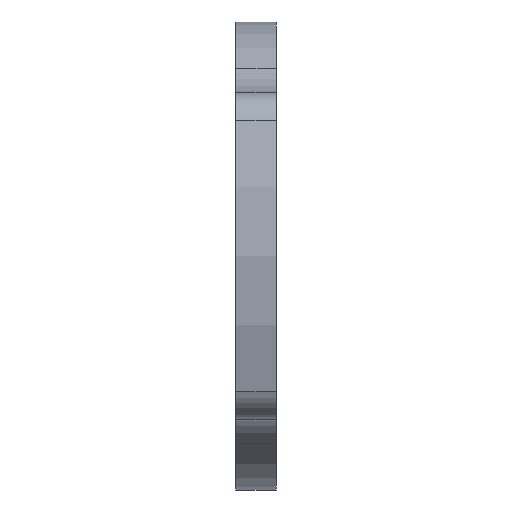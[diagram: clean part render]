
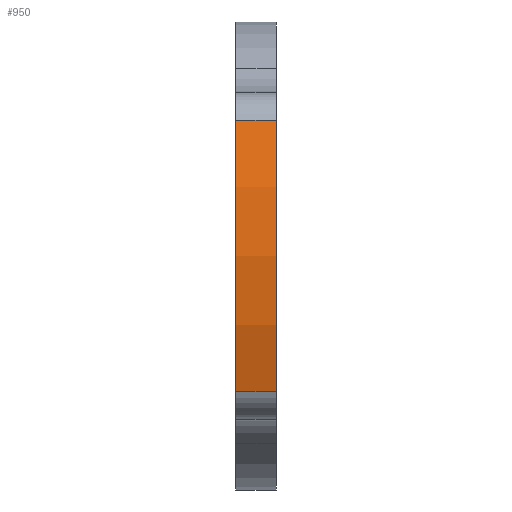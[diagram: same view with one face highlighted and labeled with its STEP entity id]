
A CAD part, left-side view. The second image highlights one B-rep face of the part: STEP entity #950.
In plain terms, the highlighted cylindrical face has radius 50.65 mm (diameter 101.3 mm), a partial arc.
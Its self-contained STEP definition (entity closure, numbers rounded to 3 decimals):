
#54 = FACE_OUTER_BOUND ( 'NONE', #1021, .T. ) ;
#375 = LINE ( 'NONE', #1093, #690 ) ;
#389 = CARTESIAN_POINT ( 'NONE',  ( -47.838, 5., 16.643 ) ) ;
#404 = CYLINDRICAL_SURFACE ( 'NONE', #1224, 50.65 ) ;
#690 = VECTOR ( 'NONE', #1098, 1000. ) ;
#746 = ORIENTED_EDGE ( 'NONE', *, *, #1424, .T. ) ;
#750 = ORIENTED_EDGE ( 'NONE', *, *, #1423, .T. ) ;
#751 = CARTESIAN_POINT ( 'NONE',  ( -47.838, 5., -16.643 ) ) ;
#763 = ORIENTED_EDGE ( 'NONE', *, *, #1487, .F. ) ;
#784 = VERTEX_POINT ( 'NONE', #751 ) ;
#817 = ORIENTED_EDGE ( 'NONE', *, *, #1379, .T. ) ;
#946 = LINE ( 'NONE', #1115, #955 ) ;
#950 = ADVANCED_FACE ( 'NONE', ( #54 ), #404, .T. ) ;
#951 = DIRECTION ( 'NONE',  ( 0., 0., 1. ) ) ;
#952 = DIRECTION ( 'NONE',  ( 0., -1., 0. ) ) ;
#955 = VECTOR ( 'NONE', #1066, 1000. ) ;
#959 = CARTESIAN_POINT ( 'NONE',  ( 0., 0., 0. ) ) ;
#980 = CIRCLE ( 'NONE', #1170, 50.65 ) ;
#1021 = EDGE_LOOP ( 'NONE', ( #817, #750, #763, #746 ) ) ;
#1023 = VERTEX_POINT ( 'NONE', #1598 ) ;
#1066 = DIRECTION ( 'NONE',  ( 0., 1., 0. ) ) ;
#1088 = CIRCLE ( 'NONE', #1110, 50.65 ) ;
#1093 = CARTESIAN_POINT ( 'NONE',  ( -47.838, 55.082, -16.643 ) ) ;
#1098 = DIRECTION ( 'NONE',  ( 0., -1., 0. ) ) ;
#1110 = AXIS2_PLACEMENT_3D ( 'NONE', #959, #952, #951 ) ;
#1115 = CARTESIAN_POINT ( 'NONE',  ( -47.838, 55.082, 16.643 ) ) ;
#1170 = AXIS2_PLACEMENT_3D ( 'NONE', #1327, #1334, #1323 ) ;
#1224 = AXIS2_PLACEMENT_3D ( 'NONE', #1635, #1625, #1637 ) ;
#1323 = DIRECTION ( 'NONE',  ( 0., 0., 1. ) ) ;
#1327 = CARTESIAN_POINT ( 'NONE',  ( 0., 5., 0. ) ) ;
#1328 = VERTEX_POINT ( 'NONE', #1508 ) ;
#1334 = DIRECTION ( 'NONE',  ( 0., -1., 0. ) ) ;
#1379 = EDGE_CURVE ( 'NONE', #1605, #784, #980, .T. ) ;
#1423 = EDGE_CURVE ( 'NONE', #784, #1328, #375, .T. ) ;
#1424 = EDGE_CURVE ( 'NONE', #1023, #1605, #946, .T. ) ;
#1487 = EDGE_CURVE ( 'NONE', #1023, #1328, #1088, .T. ) ;
#1508 = CARTESIAN_POINT ( 'NONE',  ( -47.838, 0., -16.643 ) ) ;
#1598 = CARTESIAN_POINT ( 'NONE',  ( -47.838, 0., 16.643 ) ) ;
#1605 = VERTEX_POINT ( 'NONE', #389 ) ;
#1625 = DIRECTION ( 'NONE',  ( 0., -1., 0. ) ) ;
#1635 = CARTESIAN_POINT ( 'NONE',  ( 0., 55.082, 0. ) ) ;
#1637 = DIRECTION ( 'NONE',  ( 0., 0., -1. ) ) ;
